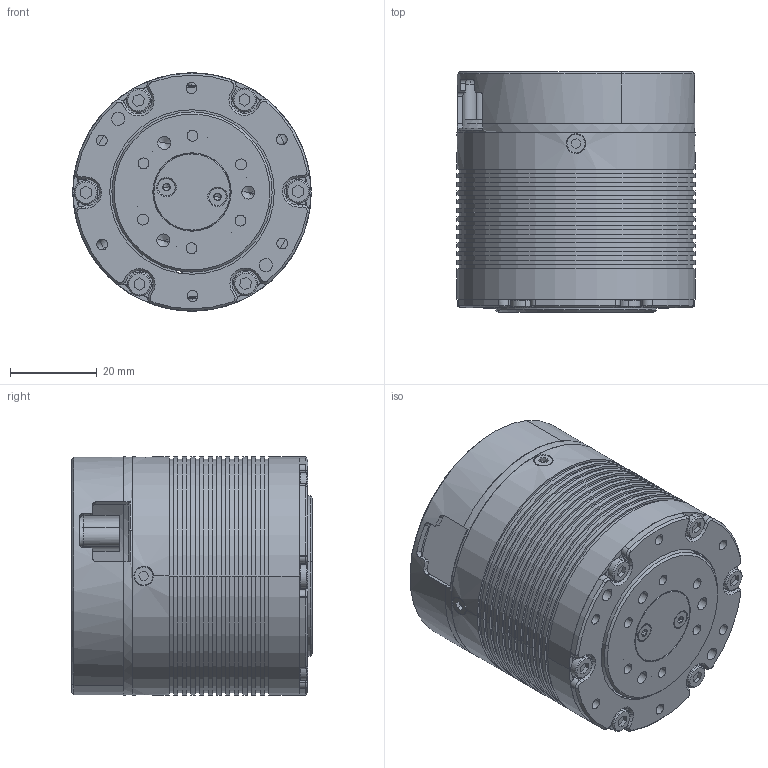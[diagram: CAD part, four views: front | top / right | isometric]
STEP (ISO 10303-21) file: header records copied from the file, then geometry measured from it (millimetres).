
FILE_DESCRIPTION (( 'STEP AP214' ), '1' );
FILE_NAME ('RMD-X4-P12-10-E-L-02(Íâ¿Ç).STEP', '2026-10-16T02:08:06', ( 'China' ), ( 'Microsoft' ), 'SwSTEP 2.0', 'SolidWorks 2020', '' );
FILE_SCHEMA (( 'AUTOMOTIVE_DESIGN' ));
Length unit declared in the file: millimetre
Products named in the file (11): M2X3_Default<偌樓馱>; M2X15_Default<偌樓馱>; MT-X4P12.5-0015-V1_Default_________1; XMT.105.027; M3X10_Default<偌樓馱>; 56zwco60leg36-3_0_0-01; RMD-X4-P12-10-E-L-02(俋褲); 8MT.034.123 隅赽盓殤 A1_-1step_Default<偌樓馱>; 8MT.013.210-驱动后盖 A0; 56zwco60leg36-3_0_0-02; M2X4
Assembly tree (20 placements, depth 2):
  RMD-X4-P12-10-E-L-02(俋褲)
    56zwco60leg36-3_0_0-02
    MT-X4P12.5-0015-V1_Default_________1
    M2X4  x2
    XMT.105.027
    56zwco60leg36-3_0_0-01
    8MT.013.210-驱动后盖 A0
    M2X15_Default<偌樓馱>  x2
    M3X10_Default<偌樓馱>  x6
    M2X3_Default<偌樓馱>  x4
    8MT.034.123 隅赽盓殤 A1_-1step_Default<偌樓馱>
Bounding box: 55 x 55.5 x 55 mm (x, y, z)
Volume: 23355.8 mm3; surface area: 35237.1 mm2
Topology: 20 solids, 20 shells, 787 faces, 1860 edges, 1143 vertices
Faces by surface type: cylinder 321, plane 251, cone 181, torus 16, sphere 14, bspline 4
Entity records: 23992 total; most frequent: CARTESIAN_POINT 3895, DIRECTION 3296, ORIENTED_EDGE 2834, EDGE_CURVE 1417, AXIS2_PLACEMENT_3D 1357, VERTEX_POINT 890, CIRCLE 744, EDGE_LOOP 711
